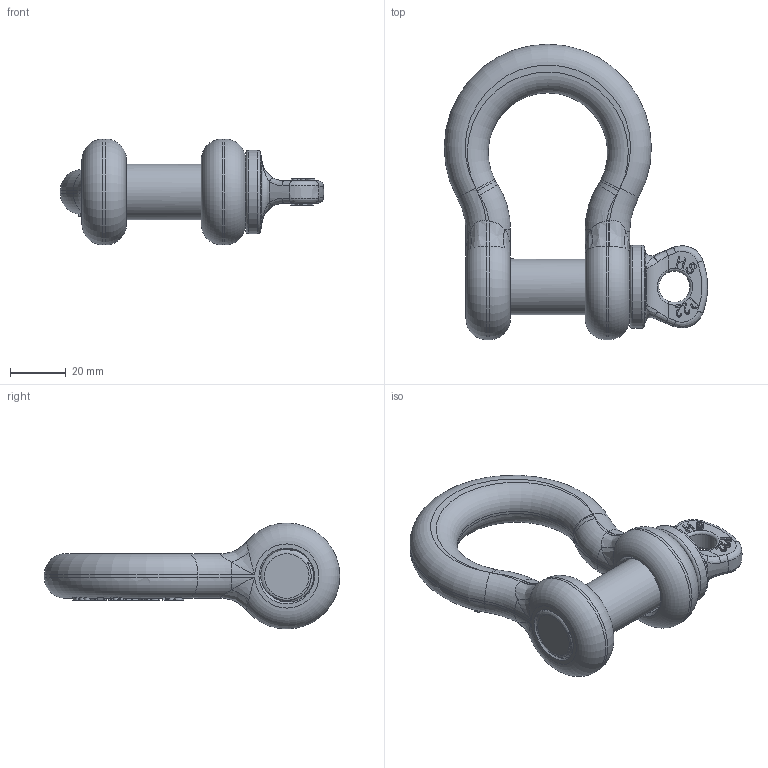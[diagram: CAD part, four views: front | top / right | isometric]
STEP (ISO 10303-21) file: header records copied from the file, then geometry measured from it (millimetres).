
FILE_DESCRIPTION(/* description */ (''),/* implementation_level */ '2;1');
FILE_NAME(/* name */ 'G-209A-5-8.stp',/* time_stamp */ '2025-04-08T08:26:38+08:00',/* author */ (''),/* organization */ (''),/* preprocessor_version */ 'ST-DEVELOPER v16',/* originating_system */ 'SIEMENS PLM Software NX 10.0',/* authorisation */ '');
FILE_SCHEMA (('AP203_CONFIGURATION_CONTROLLED_3D_DESIGN_OF_MECHANICAL_PARTS_AND_ASSEMBLIES_MIM_LF { 1 0 10303 403 2 1 2}'));
Length unit declared in the file: millimetre
Products named in the file (1): Admi20FC52B4dhse
Bounding box: 94.75 x 106.3 x 38.1 mm (x, y, z)
Volume: 81065.3 mm3; surface area: 23246.3 mm2
Topology: 2 solids, 2 shells, 564 faces, 1549 edges, 997 vertices
Faces by surface type: plane 228, extrusion 147, cylinder 68, bspline 66, torus 44, cone 10, sphere 1
Full cylindrical faces by diameter (mm): 11.2 x1, 20 x5, 21.5 x1, 30 x1
Entity records: 23590 total; most frequent: CARTESIAN_POINT 11024, ORIENTED_EDGE 3008, DIRECTION 1856, EDGE_CURVE 1504, VERTEX_POINT 975, B_SPLINE_CURVE_WITH_KNOTS 903, VECTOR 624, AXIS2_PLACEMENT_3D 616
